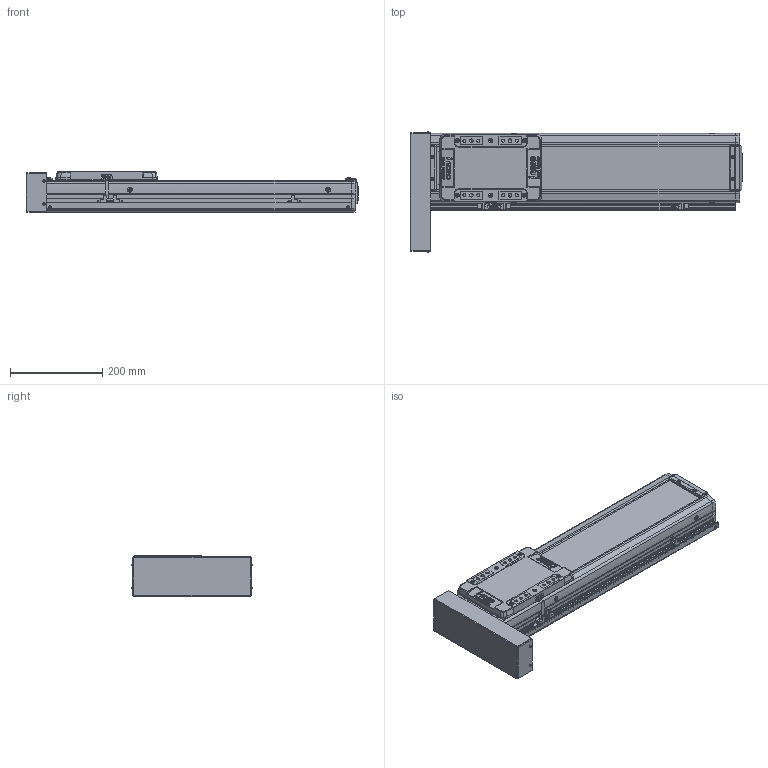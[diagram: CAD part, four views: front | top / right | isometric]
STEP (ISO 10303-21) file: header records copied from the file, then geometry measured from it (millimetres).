
FILE_DESCRIPTION(('STEP AP214'),'1');
FILE_NAME('Z:/Web/3D/SAN150/2013.04 (STP.)/SAN150ㅁㅁ-400PR+3SR.stp','2013-05-07T23:41:21',(' '),(' '),'Spatial InterOp 3D',' ',' ');
FILE_SCHEMA(('automotive_design'));
Length unit declared in the file: millimetre
Products named in the file (58): SLBL-SAN150; SLCV-SAN150; FHCS M4.0 x 8.0; BHCS M4.0 x 10.0; SFX-SAN150; RRCV-SAN150; FRBL-SAN150; Spacer; RN15; FRCV-SAN150; Screw 20; BASE-SAN150-000L ; SUS COVER; 스크루 : Round - M5.0 x 6.0; BHCS M3.0 x 6.0; P; M3.0 x 6.0; SRL-16x17-360L; SGD-SAN150; EE-SX674; SBK-SX674-352; 스크루 : Round - M3.0 x 6.0
Bounding box: 720 x 260.73 x 90 mm (x, y, z)
Volume: 5129797.3 mm3; surface area: 936227.4 mm2
Topology: 58 solids, 58 shells, 2612 faces, 6714 edges, 4315 vertices
Faces by surface type: plane 1390, cylinder 843, cone 266, sphere 80, bspline 21, torus 12
Entity records: 103182 total; most frequent: CARTESIAN_POINT 16201, DIRECTION 14204, ORIENTED_EDGE 13204, EDGE_CURVE 6602, AXIS2_PLACEMENT_3D 5033, VERTEX_POINT 4315, LINE 4138, VECTOR 4138
